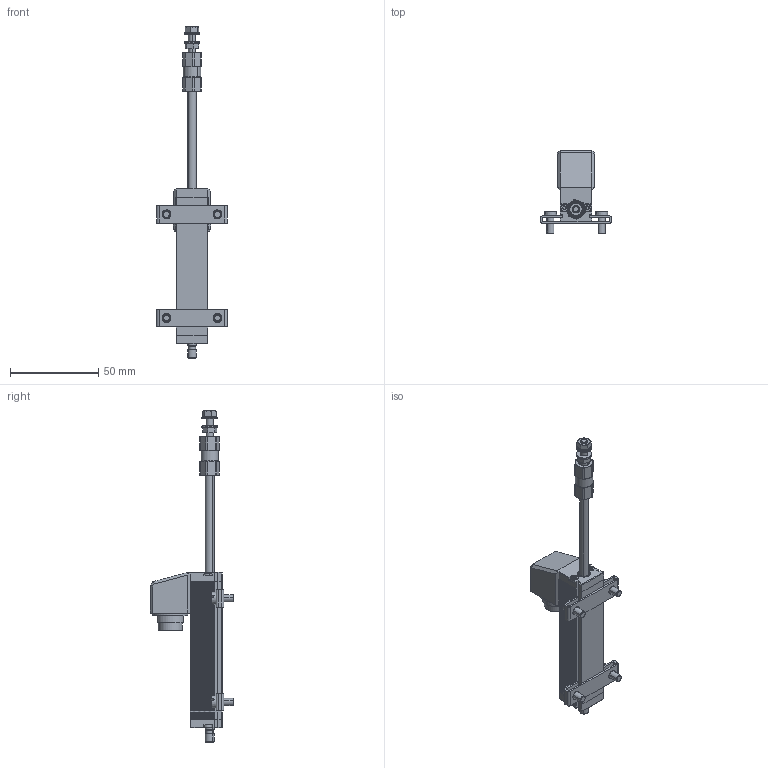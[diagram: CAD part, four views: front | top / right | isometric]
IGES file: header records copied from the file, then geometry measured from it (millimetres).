
Start section: SolidWorks IGES file using analytic representation for surfaces
Global section: file name: E:\Salzinger\I-net_3D\T-Serie_Essentials\T_TS_TR_TRS_-_SLDPRTs\TS_050.IGS; native system: SolidWorks 2008; preprocessor: SolidWorks 2008; author: salzinger; date: 081105.115423; units: millimetre
Bounding box: 40.19 x 47.2 x 188 mm (x, y, z)
Surface area: 25959.4 mm2 (no closed solid volume)
Topology: 0 solids, 0 shells, 1205 faces, 13566 edges, 13534 vertices
Faces by surface type: revolution 713, bspline 492
